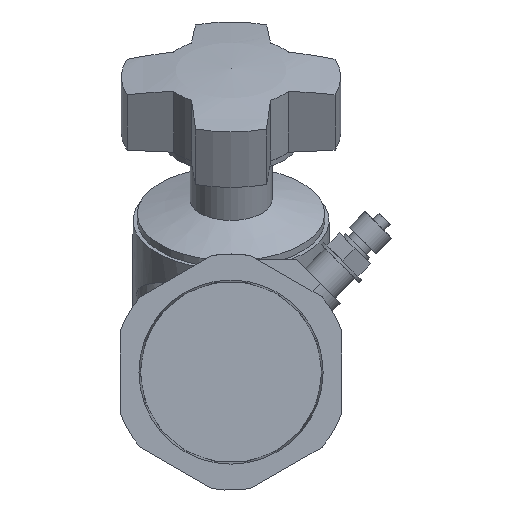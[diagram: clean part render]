
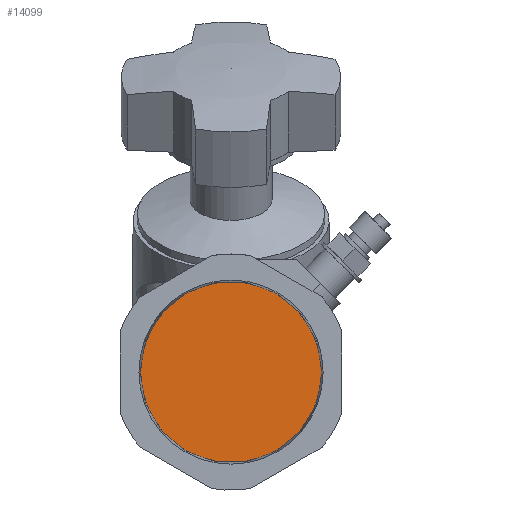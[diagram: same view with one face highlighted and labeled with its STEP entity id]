
A CAD part, left-side view. The second image highlights one B-rep face of the part: STEP entity #14099.
In plain terms, the highlighted planar face has unit normal (-1, 0, 0).
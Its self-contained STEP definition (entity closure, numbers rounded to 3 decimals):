
#13956 = CONICAL_SURFACE('',#13957,1.137,0.031);
#13957 = AXIS2_PLACEMENT_3D('',#13958,#13959,#13960);
#13958 = CARTESIAN_POINT('',(73.141,0.797,1.38));
#13959 = DIRECTION('',(1.,0.,0.));
#13960 = DIRECTION('',(0.,-1.,0.));
#14047 = VERTEX_POINT('',#14048);
#14048 = CARTESIAN_POINT('',(0.697,1.923,1.38));
#14068 = EDGE_CURVE('',#14047,#14047,#14069,.T.);
#14069 = SURFACE_CURVE('',#14070,(#14075,#14082),.PCURVE_S1.);
#14070 = CIRCLE('',#14071,1.126);
#14071 = AXIS2_PLACEMENT_3D('',#14072,#14073,#14074);
#14072 = CARTESIAN_POINT('',(0.697,0.797,1.38));
#14073 = DIRECTION('',(1.,0.,0.));
#14074 = DIRECTION('',(-0.,1.,0.));
#14075 = PCURVE('',#13956,#14076);
#14076 = DEFINITIONAL_REPRESENTATION('',(#14077),#14081);
#14077 = LINE('',#14078,#14079);
#14078 = CARTESIAN_POINT('',(0.,-72.444));
#14079 = VECTOR('',#14080,1.);
#14080 = DIRECTION('',(1.,0.));
#14081 = ( GEOMETRIC_REPRESENTATION_CONTEXT(2) 
PARAMETRIC_REPRESENTATION_CONTEXT() REPRESENTATION_CONTEXT('2D SPACE',''
  ) );
#14082 = PCURVE('',#14083,#14088);
#14083 = PLANE('',#14084);
#14084 = AXIS2_PLACEMENT_3D('',#14085,#14086,#14087);
#14085 = CARTESIAN_POINT('',(0.697,1.36,1.38));
#14086 = DIRECTION('',(-1.,-0.,-0.));
#14087 = DIRECTION('',(-0.,1.,-0.));
#14088 = DEFINITIONAL_REPRESENTATION('',(#14089),#14097);
#14089 = ( BOUNDED_CURVE() B_SPLINE_CURVE(2,(#14090,#14091,#14092,#14093
    ,#14094,#14095,#14096),.UNSPECIFIED.,.T.,.F.) 
B_SPLINE_CURVE_WITH_KNOTS((1,2,2,2,2,1),(-2.094,0.,
    2.094,4.189,6.283,8.378),
.UNSPECIFIED.) CURVE() GEOMETRIC_REPRESENTATION_ITEM() 
RATIONAL_B_SPLINE_CURVE((1.,0.5,1.,0.5,1.,0.5,1.)) REPRESENTATION_ITEM(
  '') );
#14090 = CARTESIAN_POINT('',(0.563,0.));
#14091 = CARTESIAN_POINT('',(0.563,-1.951));
#14092 = CARTESIAN_POINT('',(-1.126,-0.975));
#14093 = CARTESIAN_POINT('',(-2.816,0.));
#14094 = CARTESIAN_POINT('',(-1.126,0.975));
#14095 = CARTESIAN_POINT('',(0.563,1.951));
#14096 = CARTESIAN_POINT('',(0.563,0.));
#14097 = ( GEOMETRIC_REPRESENTATION_CONTEXT(2) 
PARAMETRIC_REPRESENTATION_CONTEXT() REPRESENTATION_CONTEXT('2D SPACE',''
  ) );
#14099 = ADVANCED_FACE('',(#14100),#14083,.T.);
#14100 = FACE_BOUND('',#14101,.T.);
#14101 = EDGE_LOOP('',(#14102));
#14102 = ORIENTED_EDGE('',*,*,#14068,.F.);
